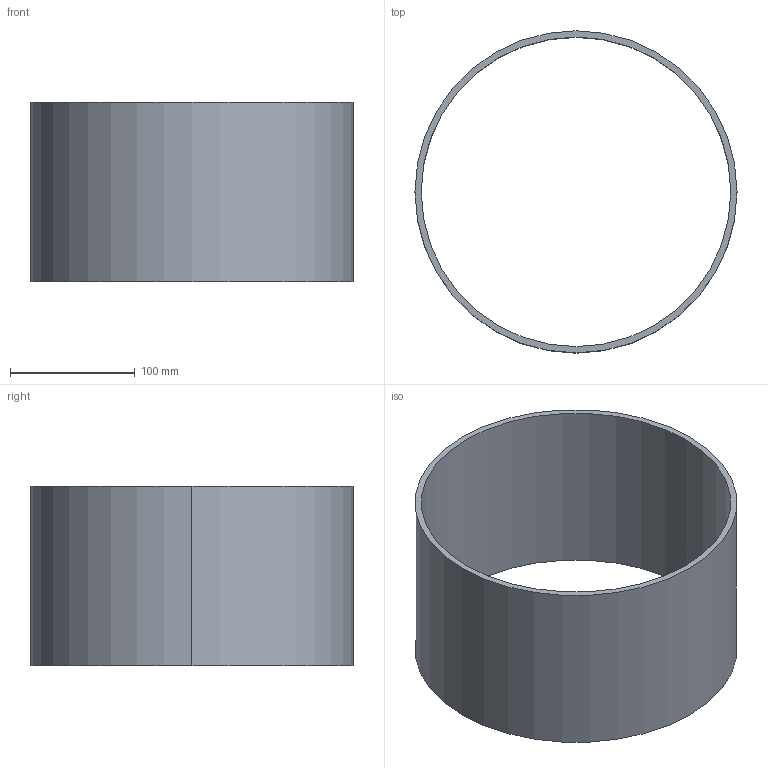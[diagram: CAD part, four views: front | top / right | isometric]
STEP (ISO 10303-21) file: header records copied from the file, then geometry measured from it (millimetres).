
FILE_DESCRIPTION(('CATIA V5 STEP Exchange'),'2;1');
FILE_NAME('C:\_Andres\UNIVERSIDAD\IQS\ASIGNATURAS\DAO\EXF\EXF-15161c\1original\Wand_Domenech_Ej07-tabla_v29.stp','2016-03-04T21:16:36+00:00',('none'),('none'),'CATIA Version 5 Release 20 SP 1 (IN-10)','CATIA V5 STEP AP203','none');
FILE_SCHEMA(('CONFIG_CONTROL_DESIGN'));
Length unit declared in the file: millimetre
Products named in the file (1): Wand_Domenech_Ej07-tabla_v29
Bounding box: 258 x 258 x 144 mm (x, y, z)
Volume: 572272.5 mm3; surface area: 236857.2 mm2
Topology: 1 solids, 1 shells, 6 faces, 13 edges, 10 vertices
Faces by surface type: cylinder 4, plane 2
Entity records: 208 total; most frequent: CARTESIAN_POINT 29, ORIENTED_EDGE 24, DIRECTION 23, AXIS2_PLACEMENT_3D 14, EDGE_CURVE 12, CIRCLE 8, EDGE_LOOP 8, VERTEX_POINT 8
